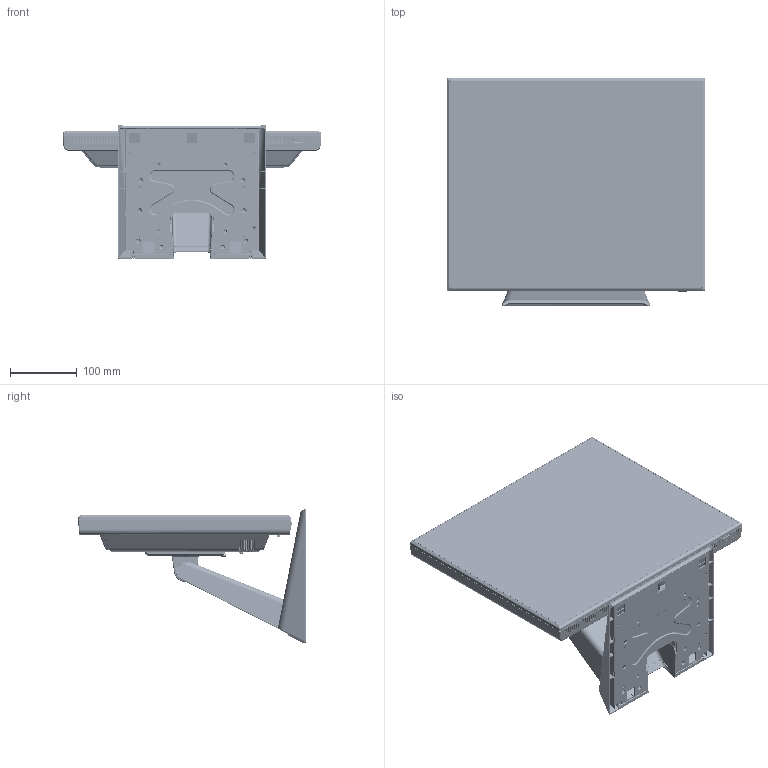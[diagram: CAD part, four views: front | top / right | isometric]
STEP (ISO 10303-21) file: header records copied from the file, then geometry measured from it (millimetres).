
FILE_DESCRIPTION (( 'STEP AP203' ), '1' );
FILE_NAME ('997-7414-01_A_PT1745P.STEP', '2021-07-27T16:22:58', ( '' ), ( '' ), 'SwSTEP 2.0', 'SolidWorks 2019', '' );
FILE_SCHEMA (( 'CONFIG_CONTROL_DESIGN' ));
Products named in the file (1): 997-7414-01_A_PT1745P
Bounding box: 386.8 x 340.92 x 201.98 mm (x, y, z)
Surface area: 1282172.7 mm2 (no closed solid volume)
Topology: 0 solids, 21 shells, 13076 faces, 35914 edges, 22858 vertices
Faces by surface type: plane 7488, cylinder 4022, bspline 871, torus 397, cone 258, sphere 40
Full cylindrical faces by diameter (mm): 1 x9, 1.2 x1, 2.261 x2, 2.5 x1, 3 x1, 3.25 x2, 3.5 x1, 3.6 x1, 4 x1, 6 x1
Entity records: 527191 total; most frequent: CARTESIAN_POINT 228634, ORIENTED_EDGE 71598, DIRECTION 47418, EDGE_CURVE 35823, VERTEX_POINT 22816, VECTOR 17062, LINE 17062, AXIS2_PLACEMENT_3D 15178
